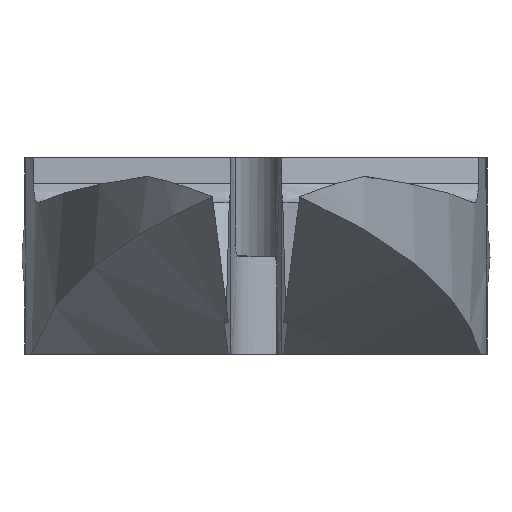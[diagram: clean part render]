
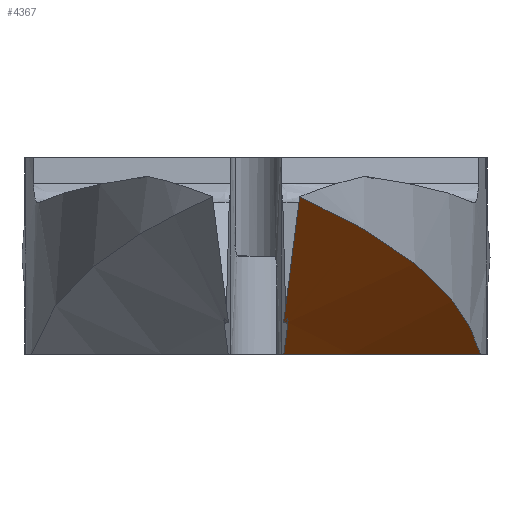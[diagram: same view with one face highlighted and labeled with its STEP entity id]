
A CAD part, left-side view. The second image highlights one B-rep face of the part: STEP entity #4367.
In plain terms, the highlighted cylindrical face has radius 45 mm (diameter 90 mm), a partial arc.
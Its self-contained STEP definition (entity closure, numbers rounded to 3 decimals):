
#52 = EDGE_CURVE ( 'NONE', #276, #2988, #3402, .T. ) ;
#242 = CARTESIAN_POINT ( 'NONE',  ( -25.087, -2.322, 6.168 ) ) ;
#259 = VECTOR ( 'NONE', #1767, 1000. ) ;
#276 = VERTEX_POINT ( 'NONE', #1772 ) ;
#526 = CARTESIAN_POINT ( 'NONE',  ( -14.499, -0.2, 0. ) ) ;
#577 = EDGE_CURVE ( 'NONE', #930, #1119, #1137, .T. ) ;
#711 = CARTESIAN_POINT ( 'NONE',  ( -21.103, -5.656, 4.222 ) ) ;
#756 = DIRECTION ( 'NONE',  ( 0.5, 0., 0.866 ) ) ;
#825 = CARTESIAN_POINT ( 'NONE',  ( -17.041, 0., 1.467 ) ) ;
#903 = CARTESIAN_POINT ( 'NONE',  ( -13.81, -6.361, 0. ) ) ;
#930 = VERTEX_POINT ( 'NONE', #1648 ) ;
#1050 = CARTESIAN_POINT ( 'NONE',  ( -19.228, -6.856, 3.328 ) ) ;
#1119 = VERTEX_POINT ( 'NONE', #4132 ) ;
#1137 = B_SPLINE_CURVE_WITH_KNOTS ( 'NONE', 3,
 ( #3651, #2768, #242, #4763, #2546, #4675, #711, #1050, #3944, #3158, #4036, #1795 ),
 .UNSPECIFIED., .F., .F.,
 ( 4, 2, 2, 2, 2, 4 ),
 ( 0., 0.005, 0.007, 0.009, 0.014, 0.019 ),
 .UNSPECIFIED. ) ;
#1195 = ORIENTED_EDGE ( 'NONE', *, *, #3297, .F. ) ;
#1296 = EDGE_CURVE ( 'NONE', #3024, #2988, #2290, .T. ) ;
#1378 = CARTESIAN_POINT ( 'NONE',  ( -20.008, 0., 3.18 ) ) ;
#1648 = CARTESIAN_POINT ( 'NONE',  ( -27., 0., 7.217 ) ) ;
#1767 = DIRECTION ( 'NONE',  ( 0.866, 0., -0.5 ) ) ;
#1772 = CARTESIAN_POINT ( 'NONE',  ( -17.041, 0., 1.467 ) ) ;
#1795 = CARTESIAN_POINT ( 'NONE',  ( -12.522, -9.383, 0. ) ) ;
#1833 = DIRECTION ( 'NONE',  ( -0.866, 0., 0.5 ) ) ;
#1880 = ORIENTED_EDGE ( 'NONE', *, *, #1296, .F. ) ;
#1917 = ORIENTED_EDGE ( 'NONE', *, *, #52, .T. ) ;
#1918 = CARTESIAN_POINT ( 'NONE',  ( -17.041, -0.133, 1.467 ) ) ;
#1927 = ORIENTED_EDGE ( 'NONE', *, *, #2593, .T. ) ;
#2079 =( BOUNDED_CURVE ( )  B_SPLINE_CURVE ( 3, ( #2415, #903, #2771, #526 ),
 .UNSPECIFIED., .F., .F. ) 
 B_SPLINE_CURVE_WITH_KNOTS ( ( 4, 4 ),
 ( 6.073, 6.279 ),
 .UNSPECIFIED. ) 
 CURVE ( )  GEOMETRIC_REPRESENTATION_ITEM ( )  RATIONAL_B_SPLINE_CURVE ( ( 1., 0.996, 0.996, 1. ) ) 
 REPRESENTATION_ITEM ( '' )  );
#2244 = CARTESIAN_POINT ( 'NONE',  ( -14.499, -0.2, 0. ) ) ;
#2279 = CARTESIAN_POINT ( 'NONE',  ( -17.041, -0.067, 1.467 ) ) ;
#2290 = LINE ( 'NONE', #3093, #3137 ) ;
#2415 = CARTESIAN_POINT ( 'NONE',  ( -12.522, -9.383, 0. ) ) ;
#2546 = CARTESIAN_POINT ( 'NONE',  ( -22.887, -4.318, 5.079 ) ) ;
#2563 = CARTESIAN_POINT ( 'NONE',  ( -17.041, -0.2, 1.467 ) ) ;
#2593 = EDGE_CURVE ( 'NONE', #930, #276, #3244, .T. ) ;
#2768 = CARTESIAN_POINT ( 'NONE',  ( -26.091, -1.212, 6.692 ) ) ;
#2771 = CARTESIAN_POINT ( 'NONE',  ( -14.472, -3.289, 0. ) ) ;
#2988 = VERTEX_POINT ( 'NONE', #2563 ) ;
#3024 = VERTEX_POINT ( 'NONE', #2244 ) ;
#3093 = CARTESIAN_POINT ( 'NONE',  ( -14.499, -0.2, 0. ) ) ;
#3137 = VECTOR ( 'NONE', #1833, 1000. ) ;
#3158 = CARTESIAN_POINT ( 'NONE',  ( -15.277, -8.634, 1.41 ) ) ;
#3194 = ORIENTED_EDGE ( 'NONE', *, *, #577, .F. ) ;
#3244 = LINE ( 'NONE', #1378, #259 ) ;
#3264 = CYLINDRICAL_SURFACE ( 'NONE', #3864, 45. ) ;
#3297 = EDGE_CURVE ( 'NONE', #1119, #3024, #2079, .T. ) ;
#3348 = DIRECTION ( 'NONE',  ( -0.866, 0., 0.5 ) ) ;
#3402 =( BOUNDED_CURVE ( )  B_SPLINE_CURVE ( 3, ( #825, #2279, #1918, #4499 ),
 .UNSPECIFIED., .F., .F. ) 
 B_SPLINE_CURVE_WITH_KNOTS ( ( 4, 4 ),
 ( 3.142, 3.146 ),
 .UNSPECIFIED. ) 
 CURVE ( )  GEOMETRIC_REPRESENTATION_ITEM ( )  RATIONAL_B_SPLINE_CURVE ( ( 1., 1., 1., 1. ) ) 
 REPRESENTATION_ITEM ( '' )  );
#3651 = CARTESIAN_POINT ( 'NONE',  ( -27., 0., 7.217 ) ) ;
#3714 = EDGE_LOOP ( 'NONE', ( #1195, #3194, #1927, #1917, #1880 ) ) ;
#3864 = AXIS2_PLACEMENT_3D ( 'NONE', #4859, #3348, #756 ) ;
#3944 = CARTESIAN_POINT ( 'NONE',  ( -17.934, -7.528, 2.711 ) ) ;
#4036 = CARTESIAN_POINT ( 'NONE',  ( -13.914, -9.067, 0.726 ) ) ;
#4132 = CARTESIAN_POINT ( 'NONE',  ( -12.522, -9.383, 0. ) ) ;
#4367 = ADVANCED_FACE ( 'NONE', ( #4372 ), #3264, .T. ) ;
#4372 = FACE_OUTER_BOUND ( 'NONE', #3714, .T. ) ;
#4499 = CARTESIAN_POINT ( 'NONE',  ( -17.041, -0.2, 1.467 ) ) ;
#4675 = CARTESIAN_POINT ( 'NONE',  ( -21.713, -5.226, 4.513 ) ) ;
#4763 = CARTESIAN_POINT ( 'NONE',  ( -23.453, -3.838, 5.355 ) ) ;
#4859 = CARTESIAN_POINT ( 'NONE',  ( 9.567, 0., 38.066 ) ) ;
